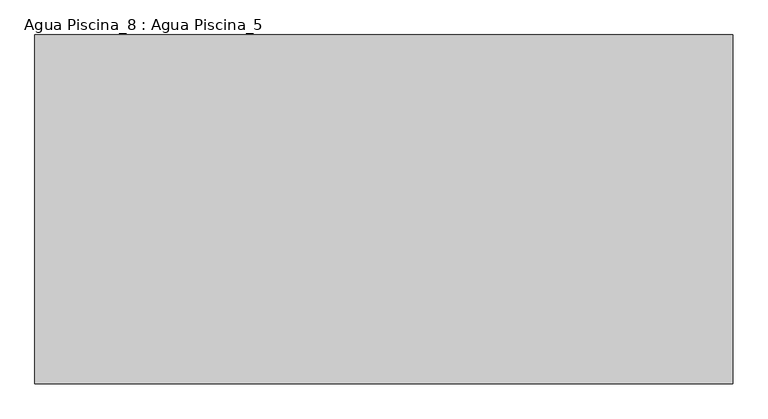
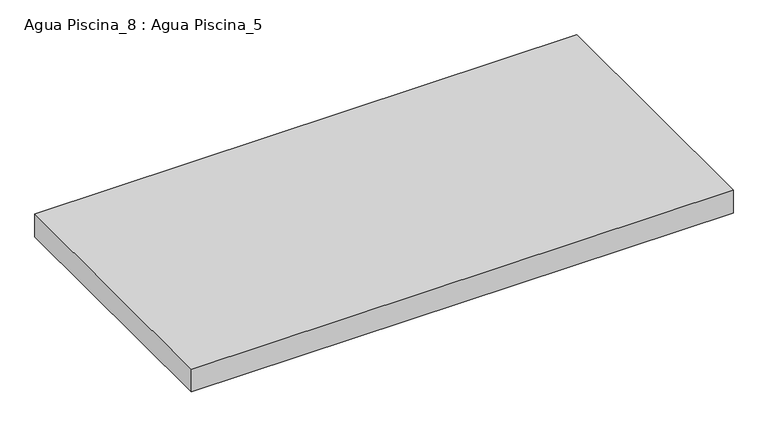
"""IFC4 building model written with IfcOpenShell, lengths in millimetres: proxy geometry, Agua Piscina_8 : Agua Piscina_5."""

from ifc_helpers import new_model, si_unit, frame, origin, place, context, project, spatial, polyline, outline, extrude, source, transform, mapped, element, save


def agua_piscina_8_agua_piscina_5_5a101cc1(model_context):
    return source(origin(), model_context, "Body", "SweptSolid", [
        extrude(outline(polyline([(-4896.4392064, -56214.1612333), (-4896.4392064, -60214.1612333), (-12896.4392064, -60214.1612333), (-12896.4392064, -56214.1612333), (-4896.4392064, -56214.1612333)])), frame((0.0, 0.0, 13513.3232298), z_axis=(0.0, 0.0, 1.0), x_axis=(1.0, 0.0, 0.0)), (0.0, 0.0, 1.0), 355.6383775),
    ])


if __name__ == "__main__":
    model = new_model("IFC4")
    model_context = context("Model", 3, world=origin())
    ifc_project = project(units=[si_unit("LENGTHUNIT", "METRE", prefix="MILLI")], contexts=[model_context])
    site = spatial("IfcSite", under=ifc_project)
    building = spatial("IfcBuilding", under=site)
    placement = place(None, origin())
    agua_piscina_8_agua_piscina_5_shape = agua_piscina_8_agua_piscina_5_5a101cc1(model_context)
    element("IfcBuildingElementProxy", 1, Name="Agua Piscina_8 : Agua Piscina_5", ObjectType="Agua Piscina_8 : Agua Piscina_5", at=placement, inside=building, context=model_context, shape_type="MappedRepresentation", body=[
        mapped(agua_piscina_8_agua_piscina_5_shape, transform((0.0, 0.0, 0.0), x_axis=(1.0, 0.0, 0.0), y_axis=(0.0, 1.0, 0.0), z_axis=(0.0, 0.0, 1.0))),
    ])
    save(model, "model.ifc")
